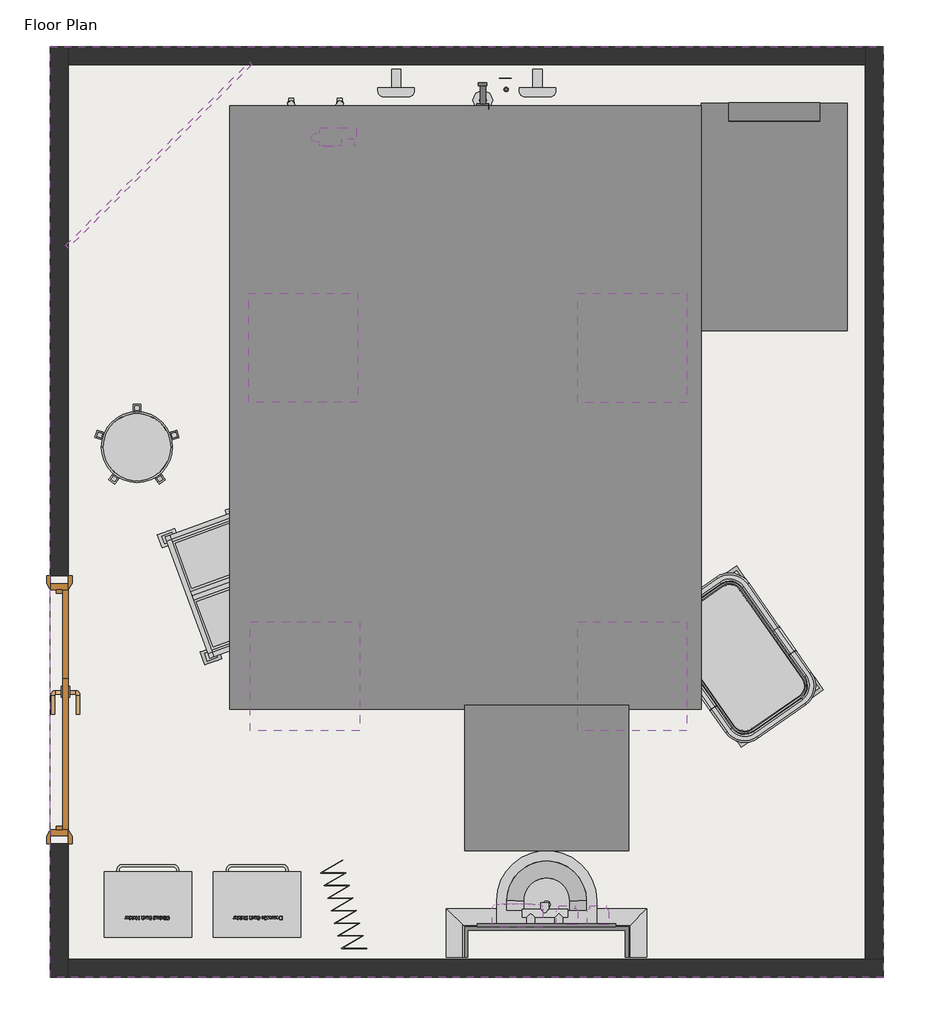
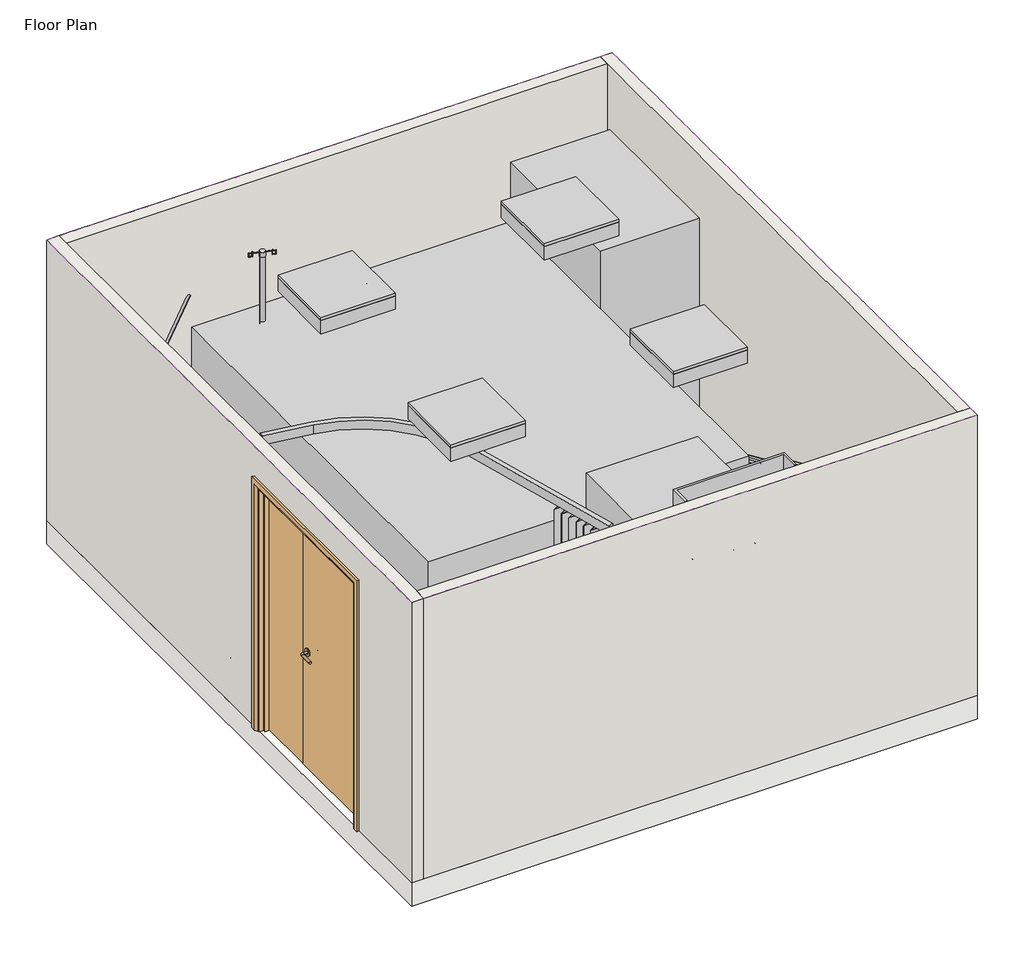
# One storey, incomplete: 11 furniture elements, 8 proxies, 4 light fixtures, 4 walls, 2 flow terminals, 1 covering, 1 door, 1 slab.
"""IFC4 building model written with IfcOpenShell, lengths in millimetres."""

from ifc_helpers import new_model, si_unit, frame, origin, origin_with_axes, place, context, project, spatial, polyline, outline, extrude, faceted_brep, transform, mapped, element, save
from components import generic_models_e5edc786, generic_models_657d313a, generic_models_1c4e6ef4, generic_models_60647dcf, generic_models_69a9413b, generic_models_cb70edec, type_1_b87888fc, door_1210x2110mm_sgl_swing_1c7006f1, flow_terminal_004a381b, flow_terminal_30861e1c, furniture_b104e96e, furniture_f9a86dfd, furniture_eb8bed29, furniture_1190518a, furniture_b70b2f27, furniture_ef83e96a, furniture_500bc087, furniture_b5986096, furniture_785aeefc, furniture_0702ecbf, furniture_166ce8d1, furniture_26d36cfe, furniture_197fe330, furniture_610823a6, lighting_fixtures_troffer_parabolic_square_600x600mm_2_lamps_e1dca80e

model = new_model("IFC4")

# Units and contexts
model_context = context("Model", 3, world=origin())
ifc_project = project(units=[si_unit("LENGTHUNIT", "METRE", prefix="MILLI")], contexts=[model_context])

# Site, building, storey
site = spatial("IfcSite", under=ifc_project)
building = spatial("IfcBuilding", under=site)
storey = spatial("IfcBuildingStorey", under=building, Name="Floor Plan", Elevation=0.0)

# Proxies
placement = place(None, origin())
generic_models_shape = generic_models_e5edc786(model_context)
element("IfcBuildingElementProxy", 1, Name="BIMHealth-Therapist_Stool-LOD2A-v1 : BIMHealth-Therapist_Stool-LOD2A-v1", ObjectType="BIMHealth-Therapist_Stool-LOD2A-v1 : BIMHealth-Therapist_Stool-LOD2A-v1", at=placement, inside=storey, context=model_context, shape_type="MappedRepresentation", body=[
    mapped(generic_models_shape, transform((1290.2686789, 1038.5069144, 0.0), x_axis=(1.0, 0.0, 0.0), y_axis=(0.0, 1.0, 0.0), z_axis=(0.0, 0.0, 1.0))),
])
generic_models_2_shape = generic_models_657d313a(model_context)
element("IfcBuildingElementProxy", 2, Name="BIMHealth-Birthing_Storage_Pole-LOD2A-v1 : BIMHealth-Birthing_Storage_Pole-LOD2A-v1", ObjectType="BIMHealth-Birthing_Storage_Pole-LOD2A-v1 : BIMHealth-Birthing_Storage_Pole-LOD2A-v1", at=placement, inside=storey, context=model_context, shape_type="MappedRepresentation", body=[
    mapped(generic_models_2_shape, transform((1914.1904911, 3146.6008896, 1600.0), x_axis=(0.7071067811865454, -0.7071067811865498, 0.0), y_axis=(0.7071067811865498, 0.7071067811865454, 0.0), z_axis=(0.0, 0.0, 1.0))),
])
generic_models_3_shape = generic_models_1c4e6ef4(model_context)
element("IfcBuildingElementProxy", 3, Name="BIMHealth-Flowmeter_Suction-LOD2A-v1 : BIMHealth-Flowmeter_Suction-LOD2A-v1", ObjectType="BIMHealth-Flowmeter_Suction-LOD2A-v1 : BIMHealth-Flowmeter_Suction-LOD2A-v1", at=placement, inside=storey, context=model_context, shape_type="MappedRepresentation", body=[
    mapped(generic_models_3_shape, transform((3190.2686789, 2923.5069144, 0.0), x_axis=(1.0, 0.0, 0.0), y_axis=(0.0, 1.0, 0.0), z_axis=(0.0, 0.0, 1.0))),
])
generic_models_4_shape = generic_models_60647dcf(model_context)
element("IfcBuildingElementProxy", 4, Name="BIMHealth-Flowmeter_Oxygen-LOD2A-v1 : BIMHealth-Flowmeter_Oxygen-LOD2A-v1", ObjectType="BIMHealth-Flowmeter_Oxygen-LOD2A-v1 : BIMHealth-Flowmeter_Oxygen-LOD2A-v1", at=placement, inside=storey, context=model_context, shape_type="MappedRepresentation", body=[
    mapped(generic_models_4_shape, transform((3318.2686789, 3002.6166041, 0.0), x_axis=(-1.0, 0.0, 0.0), y_axis=(0.0, -1.0, 0.0), z_axis=(0.0, 0.0, 1.0))),
])
generic_models_5_shape = generic_models_69a9413b(model_context)
element("IfcBuildingElementProxy", 5, Name="BIMHealth-Drip_Stand-LOD2A-v1 : BIMHealth-Drip_Stand-LOD2A-v1", ObjectType="BIMHealth-Drip_Stand-LOD2A-v1 : BIMHealth-Drip_Stand-LOD2A-v1", at=placement, inside=storey, context=model_context, shape_type="MappedRepresentation", body=[
    mapped(generic_models_5_shape, transform((2270.59938, 2738.5069144, 0.0), x_axis=(1.0, 0.0, 0.0), y_axis=(0.0, 1.0, 0.0), z_axis=(0.0, 0.0, 1.0))),
])
generic_models_6_shape = generic_models_cb70edec(model_context)
element("IfcBuildingElementProxy", 6, Name="BIMHealth-IV_Pump-LOD2A-v1 : BIMHealth-IV_Pump-LOD2A-v1", ObjectType="BIMHealth-IV_Pump-LOD2A-v1 : BIMHealth-IV_Pump-LOD2A-v1", at=placement, inside=storey, context=model_context, shape_type="MappedRepresentation", body=[
    mapped(generic_models_6_shape, transform((2293.2402812, 2792.8819144, 0.0), x_axis=(1.0, 0.0, 0.0), y_axis=(0.0, 1.0, 0.0), z_axis=(0.0, 0.0, 1.0))),
])
type_1_shape = type_1_b87888fc(model_context)
element("IfcBuildingElementProxy", 7, Name="BIMHealth-Bed_Vertical_Bumper-LOD2A-v1 : Type 1", ObjectType="BIMHealth-Bed_Vertical_Bumper-LOD2A-v1 : Type 1", at=placement, inside=storey, context=model_context, shape_type="MappedRepresentation", body=[
    mapped(type_1_shape, transform((2838.6343957, 3188.5069144, 150.0), x_axis=(-1.0, 0.0, 0.0), y_axis=(0.0, -1.0, 0.0), z_axis=(0.0, 0.0, 1.0))),
])
element("IfcBuildingElementProxy", 8, Name="BIMHealth-Bed_Vertical_Bumper-LOD2A-v1 : Type 1", ObjectType="BIMHealth-Bed_Vertical_Bumper-LOD2A-v1 : Type 1", at=placement, inside=storey, context=model_context, shape_type="MappedRepresentation", body=[
    mapped(type_1_shape, transform((3615.2686789, 3188.5069144, 150.0), x_axis=(-1.0, 0.0, 0.0), y_axis=(0.0, -1.0, 0.0), z_axis=(0.0, 0.0, 1.0))),
])

# Covering
element("IfcCovering", 9, ObjectType="BIMHealth - Generic Ceiling", at=placement, inside=storey, context=model_context, shape_type="SweptSolid", body=[
    extrude(outline(polyline([(5390.2686789, 3238.5069144), (5390.2686789, -1873.9928651), (813.6343957, -1873.9928651), (813.6343957, 3238.5069144), (5390.2686789, 3238.5069144)]), holes=[polyline([(2503.6343957, 1884.0723229), (1903.6343957, 1884.0723229), (1903.6343957, 1284.0723229), (2503.6343957, 1284.0723229), (2503.6343957, 1884.0723229)]), polyline([(4310.2686789, 1883.1958441), (3710.2686789, 1883.1958441), (3710.2686789, 1283.1958441), (4310.2686789, 1283.1958441), (4310.2686789, 1883.1958441)]), polyline([(2513.6343957, 80.0), (1913.6343957, 80.0), (1913.6343957, -520.0), (2513.6343957, -520.0), (2513.6343957, 80.0)]), polyline([(4310.2686789, 80.0), (3710.2686789, 80.0), (3710.2686789, -520.0), (4310.2686789, -520.0), (4310.2686789, 80.0)])]), frame((0.0, 0.0, 2400.0), z_axis=(0.0, 0.0, 1.0), x_axis=(1.0, 0.0, 0.0)), (0.0, 0.0, 1.0), 52.0),
])

# Door
door_1210x2110mm_sgl_swing_shape = door_1210x2110mm_sgl_swing_1c7006f1(model_context)
element("IfcDoor", 10, ObjectType="BIMHealth-Door_and_half_Birthing_Room-LOD2A-v1 : 1210x2110mm-Sgl_Swing", at=placement, inside=storey, context=model_context, shape_type="MappedRepresentation", body=[
    mapped(door_1210x2110mm_sgl_swing_shape, transform((863.6343957, -69.9928651, 0.0), x_axis=(0.0, -1.0, 0.0), y_axis=(1.0, 0.0, 0.0), z_axis=(0.0, 0.0, 1.0))),
])

# Flow terminals
flow_terminal_shape = flow_terminal_004a381b(model_context)
element("IfcFlowTerminal", 11, ObjectType="BIMHealth-Taps_IPS-LOD2A-v1 : BIMHealth-Taps_IPS-LOD2A-v1", at=placement, inside=storey, context=model_context, shape_type="MappedRepresentation", body=[
    mapped(flow_terminal_shape, transform((3405.2686789, -1520.9928651, 1140.0), x_axis=(1.0, 0.0, 0.0), y_axis=(0.0, 1.0, 0.0), z_axis=(0.0, 0.0, 1.0))),
])
flow_terminal_2_shape = flow_terminal_30861e1c(model_context)
element("IfcFlowTerminal", 12, ObjectType="BIMHealth-Wash_basin-LOD2A-v1 : BIMHealth-Wash_basin-LOD2A-v1", at=placement, inside=storey, context=model_context, shape_type="MappedRepresentation", body=[
    mapped(flow_terminal_2_shape, transform((3815.2686789, -1577.9928651, 720.0), x_axis=(-1.0, 0.0, 0.0), y_axis=(0.0, -1.0, 0.0), z_axis=(0.0, 0.0, 1.0))),
])

# Furniture
furniture_shape = furniture_b104e96e(model_context)
element("IfcFurniture", 13, ObjectType="BIMHealth-Bed_Birthing_Bed-LOD2A-v1 : BIMHealth-Bed_Birthing_Bed-LOD2A-v1", at=placement, inside=storey, context=model_context, shape_type="MappedRepresentation", body=[
    mapped(furniture_shape, transform((3095.2686789, 1568.5069144, 5.0), x_axis=(1.0, 0.0, 0.0), y_axis=(0.0, 1.0, 0.0), z_axis=(0.0, 0.0, 1.0))),
])
furniture_2_shape = furniture_f9a86dfd(model_context)
furniture_3_shape = furniture_eb8bed29(model_context)
furniture_4_shape = furniture_1190518a(model_context)
element("IfcFurniture", 14, ObjectType="BIMHealth-Cot-LOD2A-v1 : BIMHealth-Cot-LOD2A-v1", at=placement, inside=storey, context=model_context, shape_type="MappedRepresentation", body=[
    mapped(furniture_2_shape, transform((4597.0505359, -111.4660851, 0.0), x_axis=(0.5735764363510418, -0.8191520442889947, 0.0), y_axis=(0.8191520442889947, 0.5735764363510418, 0.0), z_axis=(0.0, 0.0, 1.0))),
    mapped(furniture_3_shape, transform((4597.0505359, -111.4660851, 0.0), x_axis=(0.5735764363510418, -0.8191520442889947, 0.0), y_axis=(0.8191520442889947, 0.5735764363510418, 0.0), z_axis=(0.0, 0.0, 1.0))),
    mapped(furniture_4_shape, transform((4597.0505359, -111.4660851, 0.0), x_axis=(0.5735764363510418, -0.8191520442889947, 0.0), y_axis=(0.8191520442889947, 0.5735764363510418, 0.0), z_axis=(0.0, 0.0, 1.0))),
])
furniture_5_shape = furniture_b70b2f27(model_context)
element("IfcFurniture", 15, ObjectType="BIMHealth-Curtain_Birthing-LOD2A-v1 : BIMHealth-Curtain_Birthing-LOD2A-v1", at=placement, inside=storey, context=model_context, shape_type="MappedRepresentation", body=[
    mapped(furniture_5_shape, transform((2514.3144502, -1746.7151095, 0.0), x_axis=(-0.2661189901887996, 0.9639401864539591, 0.0), y_axis=(-0.9639401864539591, -0.2661189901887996, 0.0), z_axis=(0.0, 0.0, 1.0))),
])
furniture_6_shape = furniture_ef83e96a(model_context)
furniture_7_shape = furniture_500bc087(model_context)
element("IfcFurniture", 16, ObjectType="BIMHealth-Trolley_Gratnell-v1 : BIMHealth-Trolley_Gratnell-v1", at=placement, inside=storey, context=model_context, shape_type="MappedRepresentation", body=[
    mapped(furniture_6_shape, transform((1765.2689155, 284.6011231, 0.0), x_axis=(-0.34202014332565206, 0.9396926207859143, 0.0), y_axis=(-0.9396926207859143, -0.34202014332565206, 0.0), z_axis=(0.0, 0.0, 1.0))),
    mapped(furniture_7_shape, transform((1765.2689155, 284.6011231, 0.0), x_axis=(-0.34202014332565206, 0.9396926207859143, 0.0), y_axis=(-0.9396926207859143, -0.34202014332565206, 0.0), z_axis=(0.0, 0.0, 1.0))),
])
furniture_8_shape = furniture_b5986096(model_context)
element("IfcFurniture", 17, ObjectType="BIMHealth-Foam_Dispenser-LOD2A-v1 : BIMHealth-Foam_Dispenser-LOD2A-v1", at=placement, inside=storey, context=model_context, shape_type="MappedRepresentation", body=[
    mapped(furniture_8_shape, transform((3882.7686789, -1584.4928651, 240.0), x_axis=(-1.0, 0.0, 0.0), y_axis=(0.0, -1.0, 0.0), z_axis=(0.0, 0.0, 1.0))),
])
furniture_9_shape = furniture_785aeefc(model_context)
element("IfcFurniture", 18, ObjectType="BIMHealth-Chair_High_Back-LOD2A-v1 : BIMHealth-Chair_High_Back-LOD2A-v1", at=placement, inside=storey, context=model_context, shape_type="MappedRepresentation", body=[
    mapped(furniture_9_shape, transform((4495.2686789, 2928.5069144, 0.0), x_axis=(1.0, 0.0, 0.0), y_axis=(0.0, 1.0, 0.0), z_axis=(0.0, 0.0, 1.0))),
])
furniture_10_shape = furniture_0702ecbf(model_context)
element("IfcFurniture", 19, ObjectType="BIMHealth-Washstation-LOD2A-v1 : BIMHealth-Washstation-LOD2A-v1", at=placement, inside=storey, context=model_context, shape_type="MappedRepresentation", body=[
    mapped(furniture_10_shape, transform((3090.2686789, -1763.9928651, 0.0), x_axis=(-1.0, 0.0, 0.0), y_axis=(0.0, -1.0, 0.0), z_axis=(0.0, 0.0, 1.0))),
])
furniture_11_shape = furniture_166ce8d1(model_context)
element("IfcFurniture", 20, ObjectType="BIMHealth-Paper_Towel_Dispenser-LOD2A-v1 : BIMHealth-Paper_Towel_Dispenser-LOD2A-v1", at=placement, inside=storey, context=model_context, shape_type="MappedRepresentation", body=[
    mapped(furniture_11_shape, transform((3520.2686789, -1595.9928651, 240.0), x_axis=(-1.0, 0.0, 0.0), y_axis=(0.0, -1.0, 0.0), z_axis=(0.0, 0.0, 1.0))),
])
furniture_12_shape = furniture_26d36cfe(model_context)
element("IfcFurniture", 21, ObjectType="BIMHealth-Soap_Dispenser-LOD2A-v1 : BIMHealth-Soap_Dispenser-LOD2A-v1", at=placement, inside=storey, context=model_context, shape_type="MappedRepresentation", body=[
    mapped(furniture_12_shape, transform((3712.0497555, -1583.9928651, 240.0), x_axis=(-1.0, 0.0, 0.0), y_axis=(0.0, -1.0, 0.0), z_axis=(0.0, 0.0, 1.0))),
])
furniture_13_shape = furniture_197fe330(model_context)
element("IfcFurniture", 22, ObjectType="BIMHealth-Sack_Holder_Domestic-LOD2A-v1 : BIMHealth-Sack_Holder_Domestic-LOD2A-v1", at=placement, inside=storey, context=model_context, shape_type="MappedRepresentation", body=[
    mapped(furniture_13_shape, transform((2170.2686789, -1633.9928651, 0.0), x_axis=(-1.0, 0.0, 0.0), y_axis=(0.0, -1.0, 0.0), z_axis=(0.0, 0.0, 1.0))),
])
furniture_14_shape = furniture_610823a6(model_context)
element("IfcFurniture", 23, ObjectType="BIMHealth-Sack_Holder_Clinical-LOD2A-v1 : BIMHealth-Sack_Holder_Clinical-LOD2A-v1", at=placement, inside=storey, context=model_context, shape_type="MappedRepresentation", body=[
    mapped(furniture_14_shape, transform((1570.2686789, -1633.9928651, 0.0), x_axis=(-1.0, 0.0, 0.0), y_axis=(0.0, -1.0, 0.0), z_axis=(0.0, 0.0, 1.0))),
])

# Light fixtures
lighting_fixtures_troffer_parabolic_square_600x600mm_2_lamps_shape = lighting_fixtures_troffer_parabolic_square_600x600mm_2_lamps_e1dca80e(model_context)
element("IfcLightFixture", 24, ObjectType="Lighting_Fixtures_Troffer_Parabolic_Square : 600x600mm-2_Lamps", at=placement, inside=storey, context=model_context, shape_type="MappedRepresentation", body=[
    mapped(lighting_fixtures_troffer_parabolic_square_600x600mm_2_lamps_shape, transform((2227.1378973, 1638.738255, -38.4), x_axis=(1.0, 0.0, 0.0), y_axis=(0.0, 1.0, 0.0), z_axis=(0.0, 0.0, 1.0))),
])
element("IfcLightFixture", 25, ObjectType="Lighting_Fixtures_Troffer_Parabolic_Square : 600x600mm-2_Lamps", at=placement, inside=storey, context=model_context, shape_type="MappedRepresentation", body=[
    mapped(lighting_fixtures_troffer_parabolic_square_600x600mm_2_lamps_shape, transform((4033.7721805, 1637.8617762, -38.4), x_axis=(1.0, 0.0, 0.0), y_axis=(0.0, 1.0, 0.0), z_axis=(0.0, 0.0, 1.0))),
])
element("IfcLightFixture", 26, ObjectType="Lighting_Fixtures_Troffer_Parabolic_Square : 600x600mm-2_Lamps", at=placement, inside=storey, context=model_context, shape_type="MappedRepresentation", body=[
    mapped(lighting_fixtures_troffer_parabolic_square_600x600mm_2_lamps_shape, transform((2237.1378973, -165.3340679, -38.4), x_axis=(1.0, 0.0, 0.0), y_axis=(0.0, 1.0, 0.0), z_axis=(0.0, 0.0, 1.0))),
])
element("IfcLightFixture", 27, ObjectType="Lighting_Fixtures_Troffer_Parabolic_Square : 600x600mm-2_Lamps", at=placement, inside=storey, context=model_context, shape_type="MappedRepresentation", body=[
    mapped(lighting_fixtures_troffer_parabolic_square_600x600mm_2_lamps_shape, transform((4033.7721805, -165.3340679, -38.4), x_axis=(1.0, 0.0, 0.0), y_axis=(0.0, 1.0, 0.0), z_axis=(0.0, 0.0, 1.0))),
])

# Slab
element("IfcSlab", 28, ObjectType="BIMHealth - Generic Floor", at=placement, inside=storey, context=model_context, shape_type="SweptSolid", body=[
    extrude(outline(polyline([(5390.2686789, 3238.5069144), (5390.2686789, -1873.9928651), (813.6343957, -1873.9928651), (813.6343957, 3238.5069144), (5390.2686789, 3238.5069144)])), frame((0.0, 0.0, -200.0), z_axis=(0.0, 0.0, 1.0), x_axis=(1.0, 0.0, 0.0)), (0.0, 0.0, 1.0), 200.0),
])

# Walls
element("IfcWall", 29, ObjectType="BIMHealth - Lead Lining", at=placement, inside=storey, context=model_context, shape_type="Brep", body=[
    faceted_brep([(813.6343957, -1873.9928651, 2400.0), (813.6343957, 3238.5069144, 2400.0), (813.6343957, 3238.5069144, 0.0), (813.6343957, 331.0071349, 0.0), (813.6343957, 331.0071349, 2110.0), (813.6343957, -1138.9928651, 2110.0), (813.6343957, -1138.9928651, 0.0), (813.6343957, -1873.9928651, 0.0), (913.6343957, 3238.5069144, 2400.0), (913.6343957, 3138.5069144, 2400.0), (913.6343957, -1773.9928651, 2400.0), (913.6343957, -1873.9928651, 2400.0), (913.6343957, -1873.9928651, 0.0), (913.6343957, -1773.9928651, 0.0), (913.6343957, -1138.9928651, 0.0), (913.6343957, -1138.9928651, 100.0), (913.6343957, -1138.9928651, 2110.0), (913.6343957, 331.0071349, 2110.0), (913.6343957, 331.0071349, 100.0), (913.6343957, 331.0071349, 0.0), (913.6343957, 3138.5069144, 0.0), (913.6343957, 3238.5069144, 0.0)], [[[0, 1, 2, 3, 4, 5, 6, 7]], [[8, 9, 10, 11, 12, 13, 14, 15, 16, 17, 18, 19, 20, 21]], [[12, 7, 6, 14, 13]], [[2, 21, 20, 19, 3]], [[1, 0, 11, 10, 9, 8]], [[0, 7, 12, 11]], [[2, 1, 8, 21]], [[5, 16, 15, 14, 6]], [[16, 5, 4, 17]], [[17, 4, 3, 19, 18]]]),
])
element("IfcWall", 30, ObjectType="BIMHealth - Lead Lining", at=placement, inside=storey, context=model_context, shape_type="Brep", body=[
    faceted_brep([(913.6343957, -1873.9928651, 0.0), (5390.2686789, -1873.9928651, 0.0), (5390.2686789, -1873.9928651, 2400.0), (913.6343957, -1873.9928651, 2400.0), (913.6343957, -1773.9928651, 0.0), (913.6343957, -1773.9928651, 2400.0), (5290.2686789, -1773.9928651, 2400.0), (5390.2686789, -1773.9928651, 2400.0), (5390.2686789, -1773.9928651, 0.0), (5290.2686789, -1773.9928651, 0.0)], [[[0, 1, 2, 3]], [[4, 5, 6, 7, 8, 9]], [[1, 0, 4, 9, 8]], [[3, 2, 7, 6, 5]], [[0, 3, 5, 4]], [[2, 1, 8, 7]]]),
])
element("IfcWall", 31, ObjectType="BIMHealth - Lead Lining", at=placement, inside=storey, context=model_context, shape_type="Brep", body=[
    faceted_brep([(5390.2686789, -1773.9928651, 0.0), (5390.2686789, 3238.5069144, 0.0), (5390.2686789, 3238.5069144, 2400.0), (5390.2686789, -1773.9928651, 2400.0), (5290.2686789, -1773.9928651, 0.0), (5290.2686789, -1773.9928651, 2400.0), (5290.2686789, 3138.5069144, 2400.0), (5290.2686789, 3238.5069144, 2400.0), (5290.2686789, 3238.5069144, 0.0), (5290.2686789, 3138.5069144, 0.0)], [[[0, 1, 2, 3]], [[4, 5, 6, 7, 8, 9]], [[1, 0, 4, 9, 8]], [[3, 2, 7, 6, 5]], [[0, 3, 5, 4]], [[2, 1, 8, 7]]]),
])
element("IfcWall", 32, ObjectType="BIMHealth - Lead Lining", at=placement, inside=storey, context=model_context, shape_type="SweptSolid", body=[
    extrude(outline(polyline([(913.6343957, 3238.5069144), (5290.2686789, 3238.5069144), (5290.2686789, 3138.5069144), (913.6343957, 3138.5069144), (913.6343957, 3238.5069144)])), origin_with_axes(), (0.0, 0.0, 1.0), 2400.0),
])

save(model, "model.ifc")
